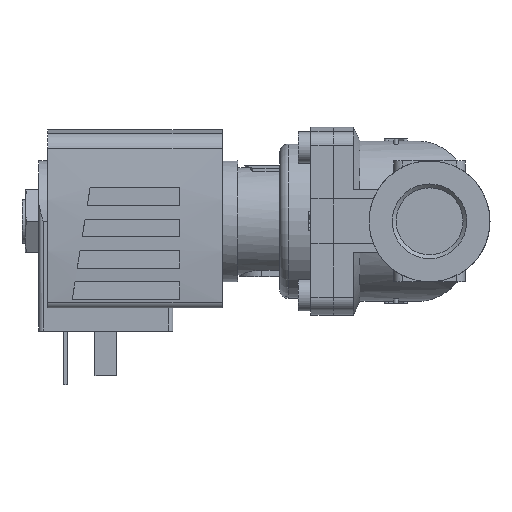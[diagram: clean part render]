
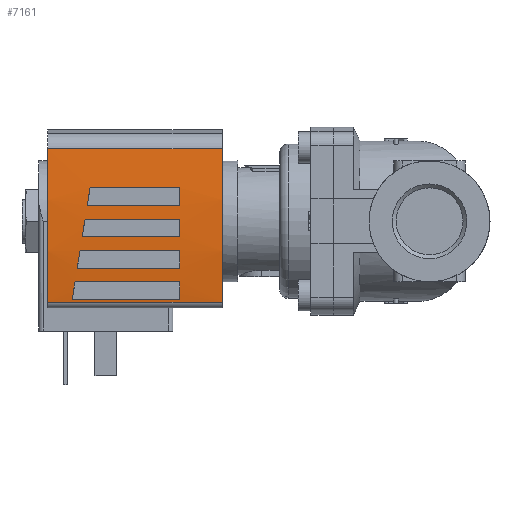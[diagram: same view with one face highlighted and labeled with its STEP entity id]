
A CAD part, left-side view. The second image highlights one B-rep face of the part: STEP entity #7161.
In plain terms, the highlighted cylindrical face has radius 130 mm (diameter 260 mm), a partial arc.
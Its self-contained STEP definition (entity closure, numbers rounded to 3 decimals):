
#92=ELLIPSE('',#7748,131.653,130.);
#93=ELLIPSE('',#7750,131.653,130.);
#94=ELLIPSE('',#7753,131.653,130.);
#95=ELLIPSE('',#7755,131.653,130.);
#248=CYLINDRICAL_SURFACE('',#7747,130.);
#661=LINE('',#11228,#1185);
#663=LINE('',#11248,#1187);
#664=LINE('',#11252,#1188);
#665=LINE('',#11253,#1189);
#666=LINE('',#11258,#1190);
#667=LINE('',#11263,#1191);
#668=LINE('',#11267,#1192);
#669=LINE('',#11271,#1193);
#670=LINE('',#11275,#1194);
#671=LINE('',#11279,#1195);
#1185=VECTOR('',#9223,1000.);
#1187=VECTOR('',#9245,1000.);
#1188=VECTOR('',#9248,1000.);
#1189=VECTOR('',#9249,1000.);
#1190=VECTOR('',#9252,1000.);
#1191=VECTOR('',#9257,1000.);
#1192=VECTOR('',#9260,1000.);
#1193=VECTOR('',#9263,1000.);
#1194=VECTOR('',#9266,1000.);
#1195=VECTOR('',#9269,1000.);
#2635=ORIENTED_EDGE('',*,*,#3705,.F.);
#2636=ORIENTED_EDGE('',*,*,#3706,.F.);
#2637=ORIENTED_EDGE('',*,*,#3707,.F.);
#2638=ORIENTED_EDGE('',*,*,#3708,.F.);
#2639=ORIENTED_EDGE('',*,*,#3709,.F.);
#2640=ORIENTED_EDGE('',*,*,#3710,.F.);
#2641=ORIENTED_EDGE('',*,*,#3711,.F.);
#2642=ORIENTED_EDGE('',*,*,#3712,.F.);
#2643=ORIENTED_EDGE('',*,*,#3713,.T.);
#2644=ORIENTED_EDGE('',*,*,#3714,.F.);
#2645=ORIENTED_EDGE('',*,*,#3699,.F.);
#2646=ORIENTED_EDGE('',*,*,#3696,.T.);
#2647=ORIENTED_EDGE('',*,*,#3715,.F.);
#2648=ORIENTED_EDGE('',*,*,#3716,.F.);
#2649=ORIENTED_EDGE('',*,*,#3717,.F.);
#2650=ORIENTED_EDGE('',*,*,#3718,.F.);
#2651=ORIENTED_EDGE('',*,*,#3719,.F.);
#2652=ORIENTED_EDGE('',*,*,#3720,.F.);
#2653=ORIENTED_EDGE('',*,*,#3721,.F.);
#2654=ORIENTED_EDGE('',*,*,#3722,.F.);
#3696=EDGE_CURVE('',#4335,#4334,#661,.T.);
#3699=EDGE_CURVE('',#4335,#4337,#4624,.T.);
#3705=EDGE_CURVE('',#4341,#4342,#92,.T.);
#3706=EDGE_CURVE('',#4343,#4341,#663,.F.);
#3707=EDGE_CURVE('',#4344,#4343,#4629,.T.);
#3708=EDGE_CURVE('',#4342,#4344,#664,.T.);
#3709=EDGE_CURVE('',#4345,#4346,#665,.T.);
#3710=EDGE_CURVE('',#4347,#4345,#93,.T.);
#3711=EDGE_CURVE('',#4348,#4347,#666,.F.);
#3712=EDGE_CURVE('',#4346,#4348,#4630,.T.);
#3713=EDGE_CURVE('',#4334,#4349,#4631,.T.);
#3714=EDGE_CURVE('',#4337,#4349,#667,.T.);
#3715=EDGE_CURVE('',#4350,#4351,#94,.T.);
#3716=EDGE_CURVE('',#4352,#4350,#668,.F.);
#3717=EDGE_CURVE('',#4353,#4352,#4632,.T.);
#3718=EDGE_CURVE('',#4351,#4353,#669,.T.);
#3719=EDGE_CURVE('',#4354,#4355,#95,.T.);
#3720=EDGE_CURVE('',#4356,#4354,#670,.F.);
#3721=EDGE_CURVE('',#4357,#4356,#4633,.T.);
#3722=EDGE_CURVE('',#4355,#4357,#671,.T.);
#4334=VERTEX_POINT('',#11227);
#4335=VERTEX_POINT('',#11229);
#4337=VERTEX_POINT('',#11235);
#4341=VERTEX_POINT('',#11246);
#4342=VERTEX_POINT('',#11247);
#4343=VERTEX_POINT('',#11249);
#4344=VERTEX_POINT('',#11251);
#4345=VERTEX_POINT('',#11254);
#4346=VERTEX_POINT('',#11255);
#4347=VERTEX_POINT('',#11257);
#4348=VERTEX_POINT('',#11259);
#4349=VERTEX_POINT('',#11262);
#4350=VERTEX_POINT('',#11265);
#4351=VERTEX_POINT('',#11266);
#4352=VERTEX_POINT('',#11268);
#4353=VERTEX_POINT('',#11270);
#4354=VERTEX_POINT('',#11273);
#4355=VERTEX_POINT('',#11274);
#4356=VERTEX_POINT('',#11276);
#4357=VERTEX_POINT('',#11278);
#4624=CIRCLE('',#7742,130.);
#4629=CIRCLE('',#7749,130.);
#4630=CIRCLE('',#7751,130.);
#4631=CIRCLE('',#7752,130.);
#4632=CIRCLE('',#7754,130.);
#4633=CIRCLE('',#7756,130.);
#4945=EDGE_LOOP('',(#2635,#2636,#2637,#2638));
#4946=EDGE_LOOP('',(#2639,#2640,#2641,#2642));
#4947=EDGE_LOOP('',(#2643,#2644,#2645,#2646));
#4948=EDGE_LOOP('',(#2647,#2648,#2649,#2650));
#4949=EDGE_LOOP('',(#2651,#2652,#2653,#2654));
#5335=FACE_BOUND('',#4945,.T.);
#5336=FACE_BOUND('',#4946,.T.);
#5337=FACE_BOUND('',#4947,.T.);
#5338=FACE_BOUND('',#4948,.T.);
#5339=FACE_BOUND('',#4949,.T.);
#7161=ADVANCED_FACE('',(#5335,#5336,#5337,#5338,#5339),#248,.T.);
#7742=AXIS2_PLACEMENT_3D('',#11234,#9230,#9231);
#7747=AXIS2_PLACEMENT_3D('',#11244,#9241,#9242);
#7748=AXIS2_PLACEMENT_3D('',#11245,#9243,#9244);
#7749=AXIS2_PLACEMENT_3D('',#11250,#9246,#9247);
#7750=AXIS2_PLACEMENT_3D('',#11256,#9250,#9251);
#7751=AXIS2_PLACEMENT_3D('',#11260,#9253,#9254);
#7752=AXIS2_PLACEMENT_3D('',#11261,#9255,#9256);
#7753=AXIS2_PLACEMENT_3D('',#11264,#9258,#9259);
#7754=AXIS2_PLACEMENT_3D('',#11269,#9261,#9262);
#7755=AXIS2_PLACEMENT_3D('',#11272,#9264,#9265);
#7756=AXIS2_PLACEMENT_3D('',#11277,#9267,#9268);
#9223=DIRECTION('',(0.,-1.,0.));
#9230=DIRECTION('',(0.,1.,0.));
#9231=DIRECTION('',(1.,0.,0.));
#9241=DIRECTION('',(0.,-1.,0.));
#9242=DIRECTION('',(0.,0.,-1.));
#9243=DIRECTION('',(-0.158,-0.987,0.));
#9244=DIRECTION('',(0.987,-0.158,0.));
#9245=DIRECTION('',(0.,-1.,0.));
#9246=DIRECTION('',(0.,1.,0.));
#9247=DIRECTION('',(0.,0.,1.));
#9248=DIRECTION('',(0.,-1.,0.));
#9249=DIRECTION('',(0.,-1.,0.));
#9250=DIRECTION('',(-0.158,-0.987,0.));
#9251=DIRECTION('',(0.987,-0.158,0.));
#9252=DIRECTION('',(0.,-1.,0.));
#9253=DIRECTION('',(0.,1.,0.));
#9254=DIRECTION('',(0.,0.,1.));
#9255=DIRECTION('',(0.,1.,0.));
#9256=DIRECTION('',(1.,0.,0.));
#9257=DIRECTION('',(0.,-1.,0.));
#9258=DIRECTION('',(-0.158,-0.987,0.));
#9259=DIRECTION('',(0.987,-0.158,0.));
#9260=DIRECTION('',(0.,-1.,0.));
#9261=DIRECTION('',(0.,1.,0.));
#9262=DIRECTION('',(0.,0.,1.));
#9263=DIRECTION('',(0.,-1.,0.));
#9264=DIRECTION('',(-0.158,-0.987,0.));
#9265=DIRECTION('',(0.987,-0.158,0.));
#9266=DIRECTION('',(0.,-1.,0.));
#9267=DIRECTION('',(0.,1.,0.));
#9268=DIRECTION('',(0.,0.,1.));
#9269=DIRECTION('',(0.,-1.,0.));
#11227=CARTESIAN_POINT('',(-18.071,-26.,14.738));
#11228=CARTESIAN_POINT('',(-18.071,13.,14.738));
#11229=CARTESIAN_POINT('',(-18.071,13.,14.738));
#11234=CARTESIAN_POINT('',(0.,13.,-114.));
#11235=CARTESIAN_POINT('',(16.195,13.,14.987));
#11244=CARTESIAN_POINT('',(0.,13.,-114.));
#11245=CARTESIAN_POINT('',(0.,4.7,-114.));
#11246=CARTESIAN_POINT('',(0.5,4.62,15.999));
#11247=CARTESIAN_POINT('',(-3.5,5.26,15.953));
#11248=CARTESIAN_POINT('',(0.5,13.,15.999));
#11249=CARTESIAN_POINT('',(0.5,-16.5,15.999));
#11250=CARTESIAN_POINT('',(0.,-16.5,-114.));
#11251=CARTESIAN_POINT('',(-3.5,-16.5,15.953));
#11252=CARTESIAN_POINT('',(-3.5,13.,15.953));
#11253=CARTESIAN_POINT('',(-17.5,13.,14.817));
#11254=CARTESIAN_POINT('',(-17.5,7.5,14.817));
#11255=CARTESIAN_POINT('',(-17.5,-16.5,14.817));
#11256=CARTESIAN_POINT('',(0.,4.7,-114.));
#11257=CARTESIAN_POINT('',(-13.5,6.86,15.297));
#11258=CARTESIAN_POINT('',(-13.5,13.,15.297));
#11259=CARTESIAN_POINT('',(-13.5,-16.5,15.297));
#11260=CARTESIAN_POINT('',(0.,-16.5,-114.));
#11261=CARTESIAN_POINT('',(0.,-26.,-114.));
#11262=CARTESIAN_POINT('',(16.195,-26.,14.987));
#11263=CARTESIAN_POINT('',(16.195,13.,14.987));
#11264=CARTESIAN_POINT('',(0.,4.7,-114.));
#11265=CARTESIAN_POINT('',(-6.5,5.74,15.837));
#11266=CARTESIAN_POINT('',(-10.5,6.38,15.575));
#11267=CARTESIAN_POINT('',(-6.5,13.,15.837));
#11268=CARTESIAN_POINT('',(-6.5,-16.5,15.837));
#11269=CARTESIAN_POINT('',(0.,-16.5,-114.));
#11270=CARTESIAN_POINT('',(-10.5,-16.5,15.575));
#11271=CARTESIAN_POINT('',(-10.5,13.,15.575));
#11272=CARTESIAN_POINT('',(0.,4.7,-114.));
#11273=CARTESIAN_POINT('',(7.5,3.5,15.783));
#11274=CARTESIAN_POINT('',(3.5,4.14,15.953));
#11275=CARTESIAN_POINT('',(7.5,13.,15.783));
#11276=CARTESIAN_POINT('',(7.5,-16.5,15.783));
#11277=CARTESIAN_POINT('',(0.,-16.5,-114.));
#11278=CARTESIAN_POINT('',(3.5,-16.5,15.953));
#11279=CARTESIAN_POINT('',(3.5,13.,15.953));
